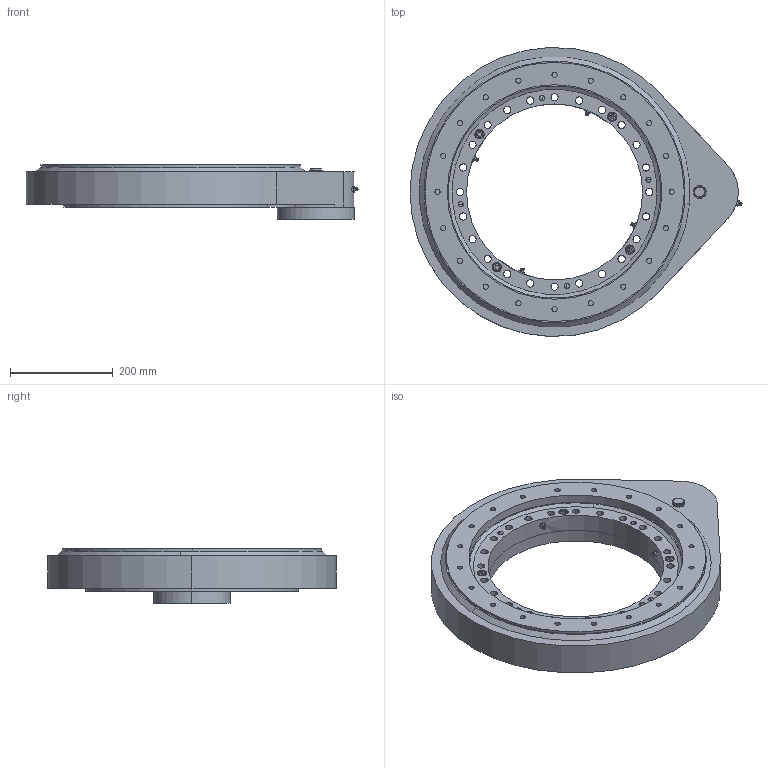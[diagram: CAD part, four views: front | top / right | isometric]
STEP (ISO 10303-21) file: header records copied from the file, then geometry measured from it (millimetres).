
FILE_DESCRIPTION (( 'STEP AP214' ), '1' );
FILE_NAME ('10411.STEP', '2023-03-16T06:53:24', ( '' ), ( '' ), 'SwSTEP 2.0', 'SolidWorks 2021', '' );
FILE_SCHEMA (( 'AUTOMOTIVE_DESIGN' ));
Length unit declared in the file: millimetre
Products named in the file (1): 10411
Bounding box: 645.27 x 561.67 x 106.5 mm (x, y, z)
Surface area: 791085.7 mm2 (no closed solid volume)
Topology: 0 solids, 42 shells, 485 faces, 1407 edges, 950 vertices
Faces by surface type: cylinder 230, plane 161, torus 48, cone 30, sphere 16
Entity records: 21994 total; most frequent: DIRECTION 3139, CARTESIAN_POINT 3135, ORIENTED_EDGE 2360, EDGE_CURVE 1403, AXIS2_PLACEMENT_3D 1258, VERTEX_POINT 950, CIRCLE 772, EDGE_LOOP 675
